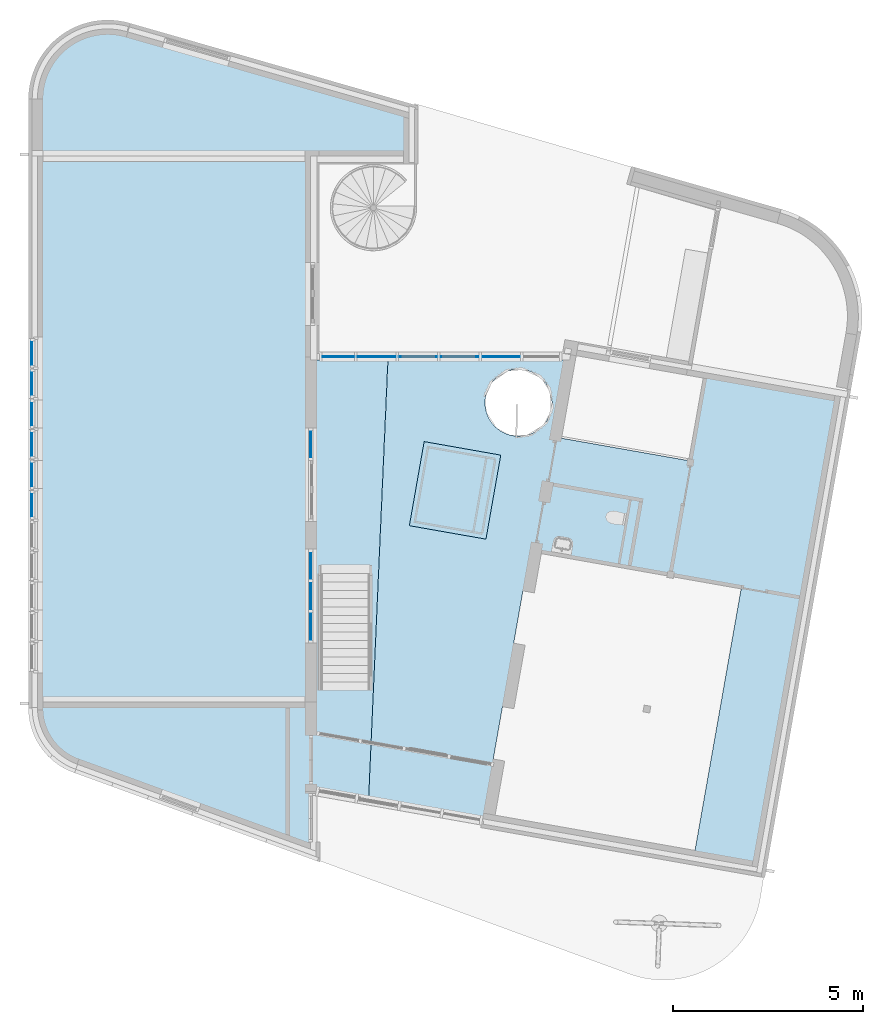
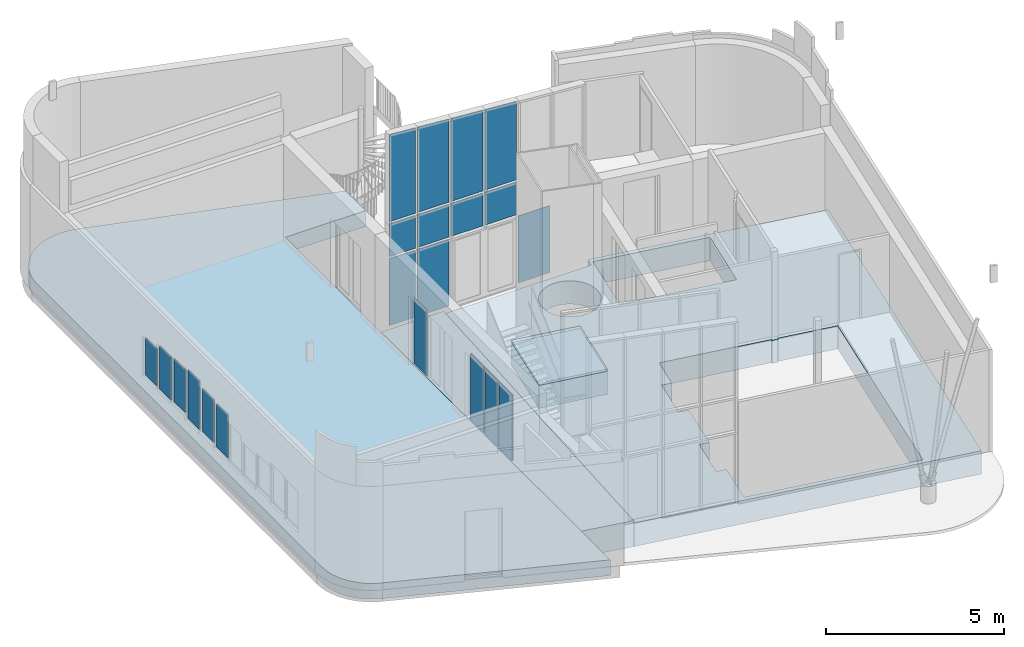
# One storey, part 9 of 21: 21 plates, 5 slabs, 9 elements without a shape of their own.
"""IFC2X3 building model written with IfcOpenShell, lengths in millimetres."""

from ifc_helpers import new_model, entity, si_unit, converted_unit, derived_unit, direction, frame, frame_2d, origin, origin_2d_with_axis, place, context, subcontext, project, spatial, polyline, circle_curve, parameter, trimmed, segment, composite_curve, rectangle, outline, extrude, source, transform, mapped, material, layer, layer_set, layer_usage, type_object, type_shapes, element, aggregate, save


model = new_model("IFC2X3")

# Units and contexts
model_context = context("Model", 3, precision=0.01, world=origin(), true_north=direction((6.12303176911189e-17, 1.0)))
body_context = subcontext(model_context, "Body", "Model", "MODEL_VIEW")
ifc_project = project(units=[si_unit("LENGTHUNIT", "METRE", prefix="MILLI"), si_unit("AREAUNIT", "SQUARE_METRE"), si_unit("VOLUMEUNIT", "CUBIC_METRE"), converted_unit("PLANEANGLEUNIT", "DEGREE", entity("IfcRatioMeasure", 0.0174532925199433), si_unit("PLANEANGLEUNIT", "RADIAN"), dimensions=[0, 0, 0, 0, 0, 0, 0]), si_unit("MASSUNIT", "GRAM", prefix="KILO"), derived_unit("MASSDENSITYUNIT", [(si_unit("MASSUNIT", "GRAM", prefix="KILO"), 1), (si_unit("LENGTHUNIT", "METRE"), -3)]), si_unit("TIMEUNIT", "SECOND"), si_unit("FREQUENCYUNIT", "HERTZ"), si_unit("THERMODYNAMICTEMPERATUREUNIT", "DEGREE_CELSIUS"), derived_unit("THERMALTRANSMITTANCEUNIT", [(si_unit("MASSUNIT", "GRAM", prefix="KILO"), 1), (si_unit("THERMODYNAMICTEMPERATUREUNIT", "KELVIN"), -1), (si_unit("TIMEUNIT", "SECOND"), -3)]), derived_unit("VOLUMETRICFLOWRATEUNIT", [(si_unit("LENGTHUNIT", "METRE"), 3), (si_unit("TIMEUNIT", "SECOND"), -1)]), si_unit("ELECTRICCURRENTUNIT", "AMPERE"), si_unit("ELECTRICVOLTAGEUNIT", "VOLT"), si_unit("POWERUNIT", "WATT"), si_unit("FORCEUNIT", "NEWTON", prefix="KILO"), si_unit("ILLUMINANCEUNIT", "LUX"), si_unit("LUMINOUSFLUXUNIT", "LUMEN"), si_unit("LUMINOUSINTENSITYUNIT", "CANDELA"), derived_unit("USERDEFINED", [(si_unit("MASSUNIT", "GRAM", prefix="KILO"), -1), (si_unit("LENGTHUNIT", "METRE"), -2), (si_unit("TIMEUNIT", "SECOND"), 3), (si_unit("LUMINOUSFLUXUNIT", "LUMEN"), 1)]), derived_unit("LINEARVELOCITYUNIT", [(si_unit("LENGTHUNIT", "METRE"), 1), (si_unit("TIMEUNIT", "SECOND"), -1)]), si_unit("PRESSUREUNIT", "PASCAL"), derived_unit("USERDEFINED", [(si_unit("LENGTHUNIT", "METRE"), -2), (si_unit("MASSUNIT", "GRAM", prefix="KILO"), 1), (si_unit("TIMEUNIT", "SECOND"), -2)])], contexts=[model_context])

# Site, building, storey
site_placement = place(None, origin())
site = spatial("IfcSite", under=ifc_project, at=site_placement, Name="<Kadaster Gemeente>;<Kadaster nummer>;<Kadaster sectie>", CompositionType="ELEMENT")
building_placement = place(site_placement, origin())
building = spatial("IfcBuilding", under=site, at=building_placement, Name="JRCZ Middelburg", CompositionType="ELEMENT")
storey_placement = place(building_placement, origin())
storey = spatial("IfcBuildingStorey", under=building, at=storey_placement, Name="00 begane grond", CompositionType="ELEMENT", Elevation=0.0)

# Slab
ifc_material_1 = material(Name="vloerafwerking pvc")
ifc_layer_1 = layer(ifc_material_1, 10.0)
ifc_material_2 = material(Name="RBM_f2_beton_ihwg_gen")
ifc_layer_2 = layer(ifc_material_2, 60.0)
ifc_material_3 = material(Name="RBM_f2_beton_ihwg C20-25")
ifc_layer_3 = layer(ifc_material_3, 70.0)
ifc_material_4 = material(Name="RBM_f2_beton_prefab_gen")
ifc_layer_4 = layer(ifc_material_4, 260.0)
ifc_material_5 = material(Name="RBM_n7_isolatie_EPS")
ifc_layer_5 = layer(ifc_material_5, 140.0)
ifc_layer_set_1 = layer_set([ifc_layer_1, ifc_layer_2, ifc_layer_3, ifc_layer_4, ifc_layer_5], Name="Floor:RBM_23_FL_kanaalplaat-260mm+druklaag-80mm")
ifc_layer_usage_1 = layer_usage(ifc_layer_set_1, "AXIS3", "POSITIVE", 0.0)
slab_type_1 = type_object("IfcSlabType", Name="Floor:RBM_23_FL_kanaalplaat-260mm+druklaag-80mm", PredefinedType="FLOOR", material=ifc_layer_set_1)
slab_1_placement = place(storey_placement, origin())
element("IfcSlab", 1, at=slab_1_placement, inside=storey, type_object=slab_type_1, material=ifc_layer_usage_1, Name="Floor:RBM_23_FL_kanaalplaat-260mm+druklaag-80mm", ObjectType="Floor:RBM_23_FL_kanaalplaat-260mm+druklaag-80mm", PredefinedType="FLOOR", context=body_context, shape_type="SweptSolid", body=[
    extrude(outline(composite_curve([segment(polyline([(-9163.03599612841, -4679.58567273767), (6866.79513431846, -4679.58567273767)]), True, "CONTINUOUS"), segment(trimmed(circle_curve(frame_2d((6866.79513431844, -2829.36703616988), x_axis=(0.0, -1.0)), 1850.21863656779), [parameter(0.0)], [parameter(106.993525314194)], True, "PARAMETER"), True, "CONTINUOUS"), segment(polyline([(8636.22913475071, -2288.6154099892), (6499.21252313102, 5114.04718810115)]), True, "CONTINUOUS"), segment(polyline([(6499.21252313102, 5114.04718810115), (5366.68254016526, 5114.04718810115)]), True, "CONTINUOUS"), segment(polyline([(5366.68254016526, 5114.04718810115), (5366.68254016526, 2520.41432726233)]), True, "CONTINUOUS"), segment(polyline([(5366.68254016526, 2520.41432726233), (-12903.9537439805, 2520.41432726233)]), True, "CONTINUOUS"), segment(polyline([(-12903.9537439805, 2520.41432726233), (-10668.6121324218, -3621.13627526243)]), True, "CONTINUOUS"), segment(trimmed(circle_curve(frame_2d((-9156.97341980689, -3070.94477890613), x_axis=(-0.939692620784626, -0.342020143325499)), 1608.65231797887), [parameter(0.0)], [parameter(69.7840671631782)], True, "PARAMETER"), True, "CONTINUOUS")], self_intersect=False)), frame((14679.5856727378, 19030.3174598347, 0.0), z_axis=(0.0, 0.0, -1.0), x_axis=(0.0, 1.0, 0.0)), (0.0, 0.0, 1.0), 540.0),
])

# Curtain wall, plates
curtain_wall_type_1 = type_object("IfcCurtainWallType", Name="Curtain Wall:NLRS_32_CW_067x114", PredefinedType="NOTDEFINED")
curtain_wall_1_placement = place(storey_placement, origin())
curtain_wall_1 = element("IfcCurtainWall", 2, at=curtain_wall_1_placement, inside=storey, type_object=curtain_wall_type_1, Name="Curtain Wall:NLRS_32_CW_067x114", ObjectType="Curtain Wall:NLRS_32_CW_067x114")
ifc_material_6 = material(Name="<Unnamed>")
ifc_layer_6 = layer(ifc_material_6, 24.0)
ifc_layer_set_2 = layer_set([ifc_layer_6], Name="System Panel:32_CWP_glas")
ifc_layer_usage_2 = layer_usage(ifc_layer_set_2, "AXIS3", "POSITIVE", 0.0)
plate_type_1 = type_object("IfcPlateType", Name="32_CWP_glas", PredefinedType="CURTAIN_PANEL", material=ifc_layer_set_2)
shared_shape_1 = source(origin(), body_context, "Body", "SweptSolid", [
    extrude(rectangle(XDim=24.0, YDim=733.000000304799, at=origin_2d_with_axis()), frame((0.0, 0.0, 0.0), z_axis=(0.0, 0.0, 1.0), x_axis=(0.0, 1.0, 0.0)), (0.0, 0.0, 1.0), 2266.0),
])
type_shapes(plate_type_1, [shared_shape_1])
plate_1_placement = place(curtain_wall_1_placement, frame((17203.0, 12000.0, 67.0), z_axis=(0.0, 0.0, 1.0), x_axis=(0.0, 1.0, 0.0)))
plate_1 = element("IfcPlate", 3, at=plate_1_placement, type_object=plate_type_1, material=ifc_layer_usage_2, Name="System Panel:32_CWP_glas", ObjectType="System Panel:32_CWP_glas", context=body_context, shape_type="MappedRepresentation", body=[
    mapped(shared_shape_1, transform((0.0, 0.0, 0.0), scale=1.0)),
])
ifc_layer_usage_3 = layer_usage(ifc_layer_set_2, "AXIS3", "POSITIVE", 0.0)
plate_2_placement = place(curtain_wall_1_placement, frame((17203.0, 12800.0, 67.0), z_axis=(0.0, 0.0, 1.0), x_axis=(0.0, 1.0, 0.0)))
plate_2 = element("IfcPlate", 4, at=plate_2_placement, type_object=plate_type_1, material=ifc_layer_usage_3, Name="System Panel:32_CWP_glas", ObjectType="System Panel:32_CWP_glas", context=body_context, shape_type="MappedRepresentation", body=[
    mapped(shared_shape_1, transform((0.0, 0.0, 0.0), scale=1.0)),
])
ifc_layer_usage_4 = layer_usage(ifc_layer_set_2, "AXIS3", "POSITIVE", 0.0)
plate_3_placement = place(curtain_wall_1_placement, frame((17203.0, 13600.0, 67.0), z_axis=(0.0, 0.0, 1.0), x_axis=(0.0, 1.0, 0.0)))
plate_3 = element("IfcPlate", 5, at=plate_3_placement, type_object=plate_type_1, material=ifc_layer_usage_4, Name="System Panel:32_CWP_glas", ObjectType="System Panel:32_CWP_glas", context=body_context, shape_type="MappedRepresentation", body=[
    mapped(shared_shape_1, transform((0.0, 0.0, 0.0), scale=1.0)),
])
aggregate(curtain_wall_1, [plate_1, plate_2, plate_3])

# Curtain wall, plate
curtain_wall_2_placement = place(storey_placement, origin())
curtain_wall_2 = element("IfcCurtainWall", 6, at=curtain_wall_2_placement, inside=storey, type_object=curtain_wall_type_1, Name="Curtain Wall:NLRS_32_CW_067x114", ObjectType="Curtain Wall:NLRS_32_CW_067x114")
ifc_layer_usage_5 = layer_usage(ifc_layer_set_2, "AXIS3", "POSITIVE", 0.0)
plate_type_2 = type_object("IfcPlateType", Name="32_CWP_glas", PredefinedType="CURTAIN_PANEL", material=ifc_layer_set_2)
shared_shape_2 = source(origin(), body_context, "Body", "SweptSolid", [
    extrude(rectangle(XDim=24.0, YDim=732.999999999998, at=origin_2d_with_axis()), frame((0.0, 0.0, 0.0), z_axis=(0.0, 0.0, 1.0), x_axis=(0.0, 1.0, 0.0)), (0.0, 0.0, 1.0), 2266.0),
])
type_shapes(plate_type_2, [shared_shape_2])
plate_4_placement = place(curtain_wall_2_placement, frame((17203.0, 16800.0, 67.0), z_axis=(0.0, 0.0, 1.0), x_axis=(0.0, 1.0, 0.0)))
plate_4 = element("IfcPlate", 7, at=plate_4_placement, type_object=plate_type_2, material=ifc_layer_usage_5, Name="System Panel:32_CWP_glas", ObjectType="System Panel:32_CWP_glas", context=body_context, shape_type="MappedRepresentation", body=[
    mapped(shared_shape_2, transform((0.0, 0.0, 0.0), scale=1.0)),
])
aggregate(curtain_wall_2, [plate_4])

# Slabs
ifc_material_7 = material(Name="RBM_n7_isolatie_hsb_245")
ifc_layer_7 = layer(ifc_material_7, 800.0)
ifc_layer_set_3 = layer_set([ifc_layer_7], Name="Floor:RBM_23_FL_tempex 800mm")
ifc_layer_usage_6 = layer_usage(ifc_layer_set_3, "AXIS3", "POSITIVE", 0.0)
slab_type_2 = type_object("IfcSlabType", Name="Floor:RBM_23_FL_tempex 800mm", PredefinedType="FLOOR", material=ifc_layer_set_3)
slab_2_placement = place(storey_placement, origin())
element("IfcSlab", 8, at=slab_2_placement, inside=storey, type_object=slab_type_2, material=ifc_layer_usage_6, Name="Floor:RBM_23_FL_tempex 800mm", ObjectType="Floor:RBM_23_FL_tempex 800mm", PredefinedType="FLOOR", context=body_context, shape_type="SweptSolid", body=[
    extrude(outline(polyline([(-6129.68782683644, -3800.38848279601), (51.9972370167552, -3800.38848279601), (1070.31217316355, -3800.38848279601), (1070.31217316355, -3514.8124808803), (5786.36511298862, -2683.24510513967), (4280.38895734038, 8799.61151720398), (-6129.68782683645, 8799.61151720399), (-6129.68782683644, -3800.38848279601)]), holes=[composite_curve([segment(trimmed(circle_curve(frame_2d((2203.40442670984, -2163.56349931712), x_axis=(-0.989825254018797, -0.142288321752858)), 879.999999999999), [parameter(171.831648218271)], [parameter(258.280481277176)], True, "PARAMETER"), False, "CONTINUOUS"), segment(trimmed(circle_curve(frame_2d((2203.40442670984, -2163.56349931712), x_axis=(-0.989825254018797, -0.142288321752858)), 880.0), [parameter(258.280481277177)], [parameter(171.831648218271)], True, "PARAMETER"), False, "CONTINUOUS")], self_intersect=False), polyline([(-4429.68782683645, 1649.611517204), (-4429.68782683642, 8649.61151720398), (920.312173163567, 8649.61151720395), (920.312173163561, 7199.61151720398), (1226.31217316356, 7199.61151720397), (1226.31217316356, 5799.61151720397), (920.312173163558, 5799.61151720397), (920.312173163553, 4099.61151720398), (1226.31217316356, 4099.61151720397), (1226.31217316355, 2699.61151720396), (920.312173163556, 2699.61151720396), (920.312173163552, 1649.61151720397), (-2443.68782683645, 1649.61151720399), (-2443.68782683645, 1689.61151720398), (-2623.68782683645, 1689.61151720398), (-2623.68782683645, 1649.61151720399), (-4429.68782683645, 1649.611517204)]), polyline([(4472.52751639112, 1525.90874953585), (4472.52751639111, -724.091250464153), (2422.52751639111, -724.091250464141), (2422.52751639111, 1525.90874953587), (4472.52751639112, 1525.90874953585)]), polyline([(51.9972370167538, -3650.38848279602), (-1032.00276298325, -3650.38848279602), (-2529.68782683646, -3650.38848279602), (-2529.68782683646, -1441.1480951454), (969.552560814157, -1441.14809514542), (969.552560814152, -3650.38848279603), (51.9972370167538, -3650.38848279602)])]), frame((24473.5238007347, 15380.3510479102, -890.0), z_axis=(0.0, 0.0, 1.0), x_axis=(-0.984807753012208, 0.173648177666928, 0.0)), (0.0, 0.0, 1.0), 800.0),
])
ifc_layer_8 = layer(ifc_material_1, 10.0)
ifc_layer_9 = layer(ifc_material_2, 80.0)
ifc_layer_10 = layer(ifc_material_7, 540.0)
ifc_layer_11 = layer(ifc_material_4, 260.0)
ifc_layer_set_4 = layer_set([ifc_layer_8, ifc_layer_9, ifc_layer_10, ifc_layer_11], Name="Floor:RBM_23_FL_kanaalplaat-260mm+druklaag-80mm overbrugging")
ifc_layer_usage_7 = layer_usage(ifc_layer_set_4, "AXIS3", "POSITIVE", 0.0)
slab_type_3 = type_object("IfcSlabType", Name="Floor:RBM_23_FL_kanaalplaat-260mm+druklaag-80mm overbrugging", PredefinedType="FLOOR", material=ifc_layer_set_4)
slab_3_placement = place(storey_placement, origin())
element("IfcSlab", 9, at=slab_3_placement, inside=storey, type_object=slab_type_3, material=ifc_layer_usage_7, Name="Floor:RBM_23_FL_kanaalplaat-260mm+druklaag-80mm overbrugging", ObjectType="Floor:RBM_23_FL_kanaalplaat-260mm+druklaag-80mm overbrugging", PredefinedType="FLOOR", context=body_context, shape_type="SweptSolid", body=[
    extrude(outline(polyline([(-5565.2789690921, -891.964131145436), (5711.72435854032, -891.964131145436), (5711.72435854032, 1145.89087265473), (-5858.16974798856, 638.037389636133), (-5565.2789690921, -891.964131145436)])), frame((18091.9641311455, 13315.8990293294, 0.0), z_axis=(0.0, 0.0, -1.0), x_axis=(0.0, 1.0, 0.0)), (0.0, 0.0, 1.0), 890.0),
])

# Curtain wall, plate
curtain_wall_type_2 = type_object("IfcCurtainWallType", Name="Curtain Wall:NLRS_31_CW_Ontwerpkozijn 067x114 2", PredefinedType="NOTDEFINED")
curtain_wall_3_placement = place(storey_placement, origin())
curtain_wall_3 = element("IfcCurtainWall", 10, at=curtain_wall_3_placement, inside=storey, type_object=curtain_wall_type_2, Name="Curtain Wall:NLRS_31_CW_Ontwerpkozijn 067x114 2", ObjectType="Curtain Wall:NLRS_31_CW_Ontwerpkozijn 067x114 2")
ifc_layer_12 = layer(ifc_material_6, 24.0)
ifc_layer_set_5 = layer_set([ifc_layer_12], Name="System Panel:31_CWP_glas_2")
ifc_layer_usage_8 = layer_usage(ifc_layer_set_5, "AXIS3", "POSITIVE", 0.278871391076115)
plate_type_3 = type_object("IfcPlateType", Name="31_CWP_glas_2", PredefinedType="CURTAIN_PANEL", material=ifc_layer_set_5)
shared_shape_3 = source(origin(), body_context, "Body", "SweptSolid", [
    extrude(rectangle(XDim=24.0, YDim=640.999999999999, at=frame_2d((-7.99360577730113e-15, 0.0), x_axis=(1.0, 0.0))), frame((0.0, -85.0, 0.0), z_axis=(0.0, 0.0, 1.0), x_axis=(0.0, 1.0, 0.0)), (0.0, 0.0, 1.0), 1266.0),
])
type_shapes(plate_type_3, [shared_shape_3])
plate_5_placement = place(curtain_wall_3_placement, frame((9931.0, 19200.0, 817.0), z_axis=(0.0, 0.0, 1.0), x_axis=(0.0, -1.0, 0.0)))
plate_5 = element("IfcPlate", 11, at=plate_5_placement, type_object=plate_type_3, material=ifc_layer_usage_8, Name="System Panel:31_CWP_glas_2", ObjectType="System Panel:31_CWP_glas_2", context=body_context, shape_type="MappedRepresentation", body=[
    mapped(shared_shape_3, transform((0.0, 0.0, 0.0), scale=1.0)),
])
aggregate(curtain_wall_3, [plate_5])

# Curtain wall, plates
curtain_wall_type_3 = type_object("IfcCurtainWallType", Name="Curtain Wall:Vliesgevel C", PredefinedType="NOTDEFINED")
curtain_wall_4_placement = place(storey_placement, origin())
curtain_wall_4 = element("IfcCurtainWall", 12, at=curtain_wall_4_placement, inside=storey, type_object=curtain_wall_type_3, Name="Curtain Wall:Vliesgevel C", ObjectType="Curtain Wall:Vliesgevel C")
ifc_layer_13 = layer(ifc_material_6, 24.0)
ifc_layer_set_6 = layer_set([ifc_layer_13], Name="System Panel:31_CWP_glas_1")
ifc_layer_usage_9 = layer_usage(ifc_layer_set_6, "AXIS3", "POSITIVE", 0.187007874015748)
plate_type_4 = type_object("IfcPlateType", Name="31_CWP_glas_1", PredefinedType="CURTAIN_PANEL", material=ifc_layer_set_6)
shared_shape_4 = source(origin(), body_context, "Body", "SweptSolid", [
    extrude(rectangle(XDim=24.0, YDim=845.987756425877, at=frame_2d((-4.44089209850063e-15, 0.0), x_axis=(1.0, 0.0))), frame((0.0, 57.0, 0.0), z_axis=(0.0, 0.0, 1.0), x_axis=(0.0, 1.0, 0.0)), (0.0, 0.0, 1.0), 2299.5),
])
type_shapes(plate_type_4, [shared_shape_4])
plate_6_placement = place(curtain_wall_4_placement, frame((17929.9357567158, 19046.62338787, 67.0)))
plate_6 = element("IfcPlate", 13, at=plate_6_placement, type_object=plate_type_4, material=ifc_layer_usage_9, Name="System Panel:31_CWP_glas_1", ObjectType="System Panel:31_CWP_glas_1", context=body_context, shape_type="MappedRepresentation", body=[
    mapped(shared_shape_4, transform((0.0, 0.0, 0.0), scale=1.0)),
])
ifc_layer_usage_10 = layer_usage(ifc_layer_set_6, "AXIS3", "POSITIVE", 0.187007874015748)
plate_type_5 = type_object("IfcPlateType", Name="31_CWP_glas_1", PredefinedType="CURTAIN_PANEL", material=ifc_layer_set_6)
shared_shape_5 = source(origin(), body_context, "Body", "SweptSolid", [
    extrude(rectangle(XDim=24.0, YDim=1027.72709861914, at=frame_2d((-4.44089209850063e-15, -5.6843418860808e-14), x_axis=(1.0, 0.0))), frame((0.0, 57.0, 0.0), z_axis=(0.0, 0.0, 1.0), x_axis=(0.0, 1.0, 0.0)), (0.0, 0.0, 1.0), 2299.5),
])
type_shapes(plate_type_5, [shared_shape_5])
plate_7_placement = place(curtain_wall_4_placement, frame((18933.7931842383, 19046.62338787, 67.0)))
plate_7 = element("IfcPlate", 14, at=plate_7_placement, type_object=plate_type_5, material=ifc_layer_usage_10, Name="System Panel:31_CWP_glas_1", ObjectType="System Panel:31_CWP_glas_1", context=body_context, shape_type="MappedRepresentation", body=[
    mapped(shared_shape_5, transform((0.0, 0.0, 0.0), scale=1.0)),
])
ifc_layer_usage_11 = layer_usage(ifc_layer_set_6, "AXIS3", "POSITIVE", 0.187007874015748)
plate_8_placement = place(curtain_wall_4_placement, frame((22217.9744800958, 19046.62338787, 67.0)))
plate_8 = element("IfcPlate", 15, at=plate_8_placement, type_object=plate_type_5, material=ifc_layer_usage_11, Name="System Panel:31_CWP_glas_1", ObjectType="System Panel:31_CWP_glas_1", context=body_context, shape_type="MappedRepresentation", body=[
    mapped(shared_shape_5, transform((0.0, 0.0, 0.0), scale=1.0)),
])
ifc_layer_usage_12 = layer_usage(ifc_layer_set_6, "AXIS3", "POSITIVE", 0.187007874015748)
plate_type_6 = type_object("IfcPlateType", Name="31_CWP_glas_1", PredefinedType="CURTAIN_PANEL", material=ifc_layer_set_6)
shared_shape_6 = source(origin(), body_context, "Body", "SweptSolid", [
    extrude(rectangle(XDim=24.0, YDim=845.987756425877, at=frame_2d((-4.44089209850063e-15, 0.0), x_axis=(1.0, 0.0))), frame((0.0, 57.0, 0.0), z_axis=(0.0, 0.0, 1.0), x_axis=(0.0, 1.0, 0.0)), (0.0, 0.0, 1.0), 1133.0),
])
type_shapes(plate_type_6, [shared_shape_6])
plate_9_placement = place(curtain_wall_4_placement, frame((17929.9357567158, 19046.62338787, 2433.5)))
plate_9 = element("IfcPlate", 16, at=plate_9_placement, type_object=plate_type_6, material=ifc_layer_usage_12, Name="System Panel:31_CWP_glas_1", ObjectType="System Panel:31_CWP_glas_1", context=body_context, shape_type="MappedRepresentation", body=[
    mapped(shared_shape_6, transform((0.0, 0.0, 0.0), scale=1.0)),
])
ifc_layer_usage_13 = layer_usage(ifc_layer_set_6, "AXIS3", "POSITIVE", 0.187007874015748)
plate_type_7 = type_object("IfcPlateType", Name="31_CWP_glas_1", PredefinedType="CURTAIN_PANEL", material=ifc_layer_set_6)
shared_shape_7 = source(origin(), body_context, "Body", "SweptSolid", [
    extrude(rectangle(XDim=24.0, YDim=1027.72709861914, at=frame_2d((-4.44089209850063e-15, -1.13686837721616e-13), x_axis=(1.0, 0.0))), frame((0.0, 57.0, 0.0), z_axis=(0.0, 0.0, 1.0), x_axis=(0.0, 1.0, 0.0)), (0.0, 0.0, 1.0), 1133.0),
])
type_shapes(plate_type_7, [shared_shape_7])
plate_10_placement = place(curtain_wall_4_placement, frame((18933.7931842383, 19046.62338787, 2433.5)))
plate_10 = element("IfcPlate", 17, at=plate_10_placement, type_object=plate_type_7, material=ifc_layer_usage_13, Name="System Panel:31_CWP_glas_1", ObjectType="System Panel:31_CWP_glas_1", context=body_context, shape_type="MappedRepresentation", body=[
    mapped(shared_shape_7, transform((0.0, 0.0, 0.0), scale=1.0)),
])
ifc_layer_usage_14 = layer_usage(ifc_layer_set_6, "AXIS3", "POSITIVE", 0.187007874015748)
plate_11_placement = place(curtain_wall_4_placement, frame((20028.5202828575, 19046.62338787, 2433.5)))
plate_11 = element("IfcPlate", 18, at=plate_11_placement, type_object=plate_type_7, material=ifc_layer_usage_14, Name="System Panel:31_CWP_glas_1", ObjectType="System Panel:31_CWP_glas_1", context=body_context, shape_type="MappedRepresentation", body=[
    mapped(shared_shape_7, transform((0.0, 0.0, 0.0), scale=1.0)),
])
ifc_layer_usage_15 = layer_usage(ifc_layer_set_6, "AXIS3", "POSITIVE", 0.187007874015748)
plate_12_placement = place(curtain_wall_4_placement, frame((21123.2473814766, 19046.62338787, 2433.5)))
plate_12 = element("IfcPlate", 19, at=plate_12_placement, type_object=plate_type_7, material=ifc_layer_usage_15, Name="System Panel:31_CWP_glas_1", ObjectType="System Panel:31_CWP_glas_1", context=body_context, shape_type="MappedRepresentation", body=[
    mapped(shared_shape_7, transform((0.0, 0.0, 0.0), scale=1.0)),
])
ifc_layer_usage_16 = layer_usage(ifc_layer_set_6, "AXIS3", "POSITIVE", 0.187007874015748)
plate_type_8 = type_object("IfcPlateType", Name="31_CWP_glas_1", PredefinedType="CURTAIN_PANEL", material=ifc_layer_set_6)
shared_shape_8 = source(origin(), body_context, "Body", "SweptSolid", [
    extrude(outline(polyline([(-1484.97450968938, -422.993878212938), (1516.21708349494, -422.993878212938), (1453.73193588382, 422.993878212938), (-1484.97450968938, 422.993878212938), (-1484.97450968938, -422.993878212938)])), frame((0.0, 45.0, 1484.97450968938), z_axis=(0.0, 1.0, 0.0), x_axis=(0.0, 0.0, 1.0)), (0.0, 0.0, 1.0), 24.0),
])
type_shapes(plate_type_8, [shared_shape_8])
plate_13_placement = place(curtain_wall_4_placement, frame((17929.9357567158, 19046.62338787, 3633.5)))
plate_13 = element("IfcPlate", 20, at=plate_13_placement, type_object=plate_type_8, material=ifc_layer_usage_16, Name="System Panel:31_CWP_glas_1", ObjectType="System Panel:31_CWP_glas_1", context=body_context, shape_type="MappedRepresentation", body=[
    mapped(shared_shape_8, transform((0.0, 0.0, 0.0), scale=1.0)),
])
ifc_layer_usage_17 = layer_usage(ifc_layer_set_6, "AXIS3", "POSITIVE", 0.187007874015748)
plate_type_9 = type_object("IfcPlateType", Name="31_CWP_glas_1", PredefinedType="CURTAIN_PANEL", material=ifc_layer_set_6)
shared_shape_9 = source(origin(), body_context, "Body", "SweptSolid", [
    extrude(outline(polyline([(-1447.90176303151, -513.86354930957), (1485.85602358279, -513.86354930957), (1409.94750248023, 513.86354930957), (-1447.90176303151, 513.86354930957), (-1447.90176303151, -513.86354930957)])), frame((0.0, 45.0, 1447.90176303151), z_axis=(0.0, 1.0, 0.0), x_axis=(0.0, 0.0, 1.0)), (0.0, 0.0, 1.0), 24.0),
])
type_shapes(plate_type_9, [shared_shape_9])
plate_14_placement = place(curtain_wall_4_placement, frame((18933.7931842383, 19046.62338787, 3633.5)))
plate_14 = element("IfcPlate", 21, at=plate_14_placement, type_object=plate_type_9, material=ifc_layer_usage_17, Name="System Panel:31_CWP_glas_1", ObjectType="System Panel:31_CWP_glas_1", context=body_context, shape_type="MappedRepresentation", body=[
    mapped(shared_shape_9, transform((0.0, 0.0, 0.0), scale=1.0)),
])
ifc_layer_usage_18 = layer_usage(ifc_layer_set_6, "AXIS3", "POSITIVE", 0.187007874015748)
plate_type_10 = type_object("IfcPlateType", Name="31_CWP_glas_1", PredefinedType="CURTAIN_PANEL", material=ifc_layer_set_6)
shared_shape_10 = source(origin(), body_context, "Body", "SweptSolid", [
    extrude(outline(polyline([(-1407.47317300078, -513.86354930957), (1445.42743355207, -513.86354930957), (1369.5189124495, 513.86354930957), (-1407.47317300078, 513.86354930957), (-1407.47317300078, -513.86354930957)])), frame((0.0, 45.0, 1407.47317300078), z_axis=(0.0, 1.0, 0.0), x_axis=(0.0, 0.0, 1.0)), (0.0, 0.0, 1.0), 24.0),
])
type_shapes(plate_type_10, [shared_shape_10])
plate_15_placement = place(curtain_wall_4_placement, frame((20028.5202828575, 19046.62338787, 3633.5)))
plate_15 = element("IfcPlate", 22, at=plate_15_placement, type_object=plate_type_10, material=ifc_layer_usage_18, Name="System Panel:31_CWP_glas_1", ObjectType="System Panel:31_CWP_glas_1", context=body_context, shape_type="MappedRepresentation", body=[
    mapped(shared_shape_10, transform((0.0, 0.0, 0.0), scale=1.0)),
])
ifc_layer_usage_19 = layer_usage(ifc_layer_set_6, "AXIS3", "POSITIVE", 0.187007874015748)
plate_type_11 = type_object("IfcPlateType", Name="31_CWP_glas_1", PredefinedType="CURTAIN_PANEL", material=ifc_layer_set_6)
shared_shape_11 = source(origin(), body_context, "Body", "SweptSolid", [
    extrude(outline(polyline([(-1367.04458297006, -513.86354930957), (1404.99884352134, -513.86354930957), (1329.09032241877, 513.86354930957), (-1367.04458297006, 513.86354930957), (-1367.04458297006, -513.86354930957)])), frame((0.0, 45.0, 1367.04458297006), z_axis=(0.0, 1.0, 0.0), x_axis=(0.0, 0.0, 1.0)), (0.0, 0.0, 1.0), 24.0),
])
type_shapes(plate_type_11, [shared_shape_11])
plate_16_placement = place(curtain_wall_4_placement, frame((21123.2473814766, 19046.62338787, 3633.5)))
plate_16 = element("IfcPlate", 23, at=plate_16_placement, type_object=plate_type_11, material=ifc_layer_usage_19, Name="System Panel:31_CWP_glas_1", ObjectType="System Panel:31_CWP_glas_1", context=body_context, shape_type="MappedRepresentation", body=[
    mapped(shared_shape_11, transform((0.0, 0.0, 0.0), scale=1.0)),
])
aggregate(curtain_wall_4, [plate_6, plate_7, plate_8, plate_9, plate_10, plate_11, plate_12, plate_13, plate_14, plate_15, plate_16])

# Curtain wall, plate
curtain_wall_5_placement = place(storey_placement, origin())
curtain_wall_5 = element("IfcCurtainWall", 24, at=curtain_wall_5_placement, inside=storey, type_object=curtain_wall_type_2, Name="Curtain Wall:NLRS_31_CW_Ontwerpkozijn 067x114 2", ObjectType="Curtain Wall:NLRS_31_CW_Ontwerpkozijn 067x114 2")
ifc_layer_usage_20 = layer_usage(ifc_layer_set_5, "AXIS3", "POSITIVE", 0.278871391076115)
plate_type_12 = type_object("IfcPlateType", Name="31_CWP_glas_2", PredefinedType="CURTAIN_PANEL", material=ifc_layer_set_5)
shared_shape_12 = source(origin(), body_context, "Body", "SweptSolid", [
    extrude(rectangle(XDim=24.0, YDim=640.999999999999, at=frame_2d((-7.99360577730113e-15, 0.0), x_axis=(1.0, 0.0))), frame((0.0, -85.0, 0.0), z_axis=(0.0, 0.0, 1.0), x_axis=(0.0, 1.0, 0.0)), (0.0, 0.0, 1.0), 1466.0),
])
type_shapes(plate_type_12, [shared_shape_12])
plate_17_placement = place(curtain_wall_5_placement, frame((9931.0, 15200.0, 767.0), z_axis=(0.0, 0.0, 1.0), x_axis=(0.0, -1.0, 0.0)))
plate_17 = element("IfcPlate", 25, at=plate_17_placement, type_object=plate_type_12, material=ifc_layer_usage_20, Name="System Panel:31_CWP_glas_2", ObjectType="System Panel:31_CWP_glas_2", context=body_context, shape_type="MappedRepresentation", body=[
    mapped(shared_shape_12, transform((0.0, 0.0, 0.0), scale=1.0)),
])
aggregate(curtain_wall_5, [plate_17])

curtain_wall_6_placement = place(storey_placement, origin())
curtain_wall_6 = element("IfcCurtainWall", 26, at=curtain_wall_6_placement, inside=storey, type_object=curtain_wall_type_2, Name="Curtain Wall:NLRS_31_CW_Ontwerpkozijn 067x114 2", ObjectType="Curtain Wall:NLRS_31_CW_Ontwerpkozijn 067x114 2")
ifc_layer_usage_21 = layer_usage(ifc_layer_set_5, "AXIS3", "POSITIVE", 0.278871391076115)
plate_18_placement = place(curtain_wall_6_placement, frame((9931.0, 16000.0, 817.0), z_axis=(0.0, 0.0, 1.0), x_axis=(0.0, -1.0, 0.0)))
plate_18 = element("IfcPlate", 27, at=plate_18_placement, type_object=plate_type_12, material=ifc_layer_usage_21, Name="System Panel:31_CWP_glas_2", ObjectType="System Panel:31_CWP_glas_2", context=body_context, shape_type="MappedRepresentation", body=[
    mapped(shared_shape_12, transform((0.0, 0.0, 0.0), scale=1.0)),
])
aggregate(curtain_wall_6, [plate_18])

curtain_wall_7_placement = place(storey_placement, origin())
curtain_wall_7 = element("IfcCurtainWall", 28, at=curtain_wall_7_placement, inside=storey, type_object=curtain_wall_type_2, Name="Curtain Wall:NLRS_31_CW_Ontwerpkozijn 067x114 2", ObjectType="Curtain Wall:NLRS_31_CW_Ontwerpkozijn 067x114 2")
ifc_layer_usage_22 = layer_usage(ifc_layer_set_5, "AXIS3", "POSITIVE", 0.278871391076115)
plate_19_placement = place(curtain_wall_7_placement, frame((9931.0, 18400.0, 817.0), z_axis=(0.0, 0.0, 1.0), x_axis=(0.0, -1.0, 0.0)))
plate_19 = element("IfcPlate", 29, at=plate_19_placement, type_object=plate_type_12, material=ifc_layer_usage_22, Name="System Panel:31_CWP_glas_2", ObjectType="System Panel:31_CWP_glas_2", context=body_context, shape_type="MappedRepresentation", body=[
    mapped(shared_shape_12, transform((0.0, 0.0, 0.0), scale=1.0)),
])
aggregate(curtain_wall_7, [plate_19])

curtain_wall_8_placement = place(storey_placement, origin())
curtain_wall_8 = element("IfcCurtainWall", 30, at=curtain_wall_8_placement, inside=storey, type_object=curtain_wall_type_2, Name="Curtain Wall:NLRS_31_CW_Ontwerpkozijn 067x114 2", ObjectType="Curtain Wall:NLRS_31_CW_Ontwerpkozijn 067x114 2")
ifc_layer_usage_23 = layer_usage(ifc_layer_set_5, "AXIS3", "POSITIVE", 0.278871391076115)
plate_20_placement = place(curtain_wall_8_placement, frame((9931.0, 17600.0, 867.0), z_axis=(0.0, 0.0, 1.0), x_axis=(0.0, -1.0, 0.0)))
plate_20 = element("IfcPlate", 31, at=plate_20_placement, type_object=plate_type_12, material=ifc_layer_usage_23, Name="System Panel:31_CWP_glas_2", ObjectType="System Panel:31_CWP_glas_2", context=body_context, shape_type="MappedRepresentation", body=[
    mapped(shared_shape_12, transform((0.0, 0.0, 0.0), scale=1.0)),
])
aggregate(curtain_wall_8, [plate_20])

curtain_wall_9_placement = place(storey_placement, origin())
curtain_wall_9 = element("IfcCurtainWall", 32, at=curtain_wall_9_placement, inside=storey, type_object=curtain_wall_type_2, Name="Curtain Wall:NLRS_31_CW_Ontwerpkozijn 067x114 2", ObjectType="Curtain Wall:NLRS_31_CW_Ontwerpkozijn 067x114 2")
ifc_layer_usage_24 = layer_usage(ifc_layer_set_5, "AXIS3", "POSITIVE", 0.278871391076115)
plate_type_13 = type_object("IfcPlateType", Name="31_CWP_glas_2", PredefinedType="CURTAIN_PANEL", material=ifc_layer_set_5)
shared_shape_13 = source(origin(), body_context, "Body", "SweptSolid", [
    extrude(rectangle(XDim=24.0, YDim=640.999999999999, at=frame_2d((-7.99360577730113e-15, 0.0), x_axis=(1.0, 0.0))), frame((0.0, -85.0, 0.0), z_axis=(0.0, 0.0, 1.0), x_axis=(0.0, 1.0, 0.0)), (0.0, 0.0, 1.0), 1666.0),
])
type_shapes(plate_type_13, [shared_shape_13])
plate_21_placement = place(curtain_wall_9_placement, frame((9931.0, 16800.0, 767.0), z_axis=(0.0, 0.0, 1.0), x_axis=(0.0, -1.0, 0.0)))
plate_21 = element("IfcPlate", 33, at=plate_21_placement, type_object=plate_type_13, material=ifc_layer_usage_24, Name="System Panel:31_CWP_glas_2", ObjectType="System Panel:31_CWP_glas_2", context=body_context, shape_type="MappedRepresentation", body=[
    mapped(shared_shape_13, transform((0.0, 0.0, 0.0), scale=1.0)),
])
aggregate(curtain_wall_9, [plate_21])

# Slabs
ifc_layer_14 = layer(ifc_material_7, 790.0)
ifc_layer_set_7 = layer_set([ifc_layer_14], Name="Floor:RBM_23_FL_tempex 790")
ifc_layer_usage_25 = layer_usage(ifc_layer_set_7, "AXIS3", "POSITIVE", 0.0)
slab_type_4 = type_object("IfcSlabType", Name="Floor:RBM_23_FL_tempex 790", PredefinedType="FLOOR", material=ifc_layer_set_7)
slab_4_placement = place(storey_placement, origin())
element("IfcSlab", 34, at=slab_4_placement, inside=storey, type_object=slab_type_4, material=ifc_layer_usage_25, Name="Floor:RBM_23_FL_tempex 790", ObjectType="Floor:RBM_23_FL_tempex 790", PredefinedType="FLOOR", context=body_context, shape_type="SweptSolid", body=[
    extrude(rectangle(XDim=2049.99999999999, YDim=2250.0, at=frame_2d((2.38742359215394e-12, 6.82121026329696e-13), x_axis=(1.0, 0.0))), frame((21008.7549001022, 15584.1898737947, -100.0), z_axis=(0.0, 0.0, -1.0), x_axis=(0.984807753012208, -0.173648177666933, 0.0)), (0.0, 0.0, 1.0), 790.0),
])
ifc_layer_15 = layer(ifc_material_1, 10.0)
ifc_layer_16 = layer(ifc_material_3, 80.0)
ifc_layer_set_8 = layer_set([ifc_layer_15, ifc_layer_16], Name="Floor:RBM_23_FL_gewapende druklaag gevlinderd+ afwerking")
ifc_layer_usage_26 = layer_usage(ifc_layer_set_8, "AXIS3", "POSITIVE", 0.0)
slab_type_5 = type_object("IfcSlabType", Name="Floor:RBM_23_FL_gewapende druklaag gevlinderd+ afwerking", PredefinedType="FLOOR", material=ifc_layer_set_8)
slab_5_placement = place(storey_placement, origin())
element("IfcSlab", 35, at=slab_5_placement, inside=storey, type_object=slab_type_5, material=ifc_layer_usage_26, Name="Floor:RBM_23_FL_gewapende druklaag gevlinderd+ afwerking", ObjectType="Floor:RBM_23_FL_gewapende druklaag gevlinderd+ afwerking", PredefinedType="FLOOR", context=body_context, shape_type="SweptSolid", body=[
    extrude(rectangle(XDim=2049.99999999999, YDim=2250.0, at=frame_2d((2.38742359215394e-12, 6.82121026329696e-13), x_axis=(1.0, 0.0))), frame((21008.7549001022, 15584.1898737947, -20.0), z_axis=(0.0, 0.0, -1.0), x_axis=(0.984807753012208, -0.173648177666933, 0.0)), (0.0, 0.0, 1.0), 90.0),
])

save(model, "model.ifc")
